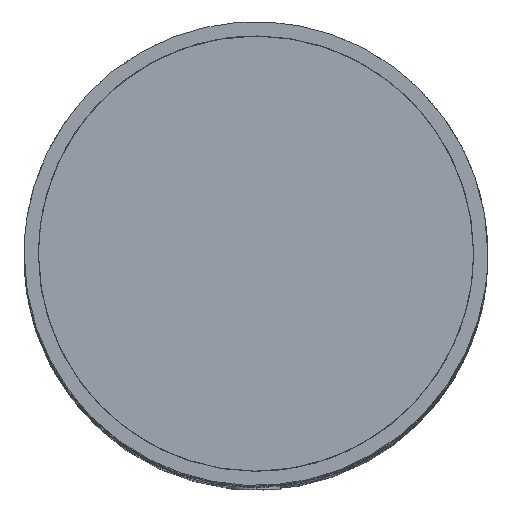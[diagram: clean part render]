
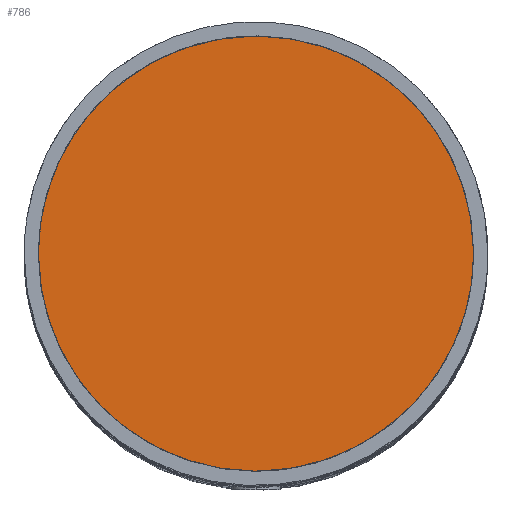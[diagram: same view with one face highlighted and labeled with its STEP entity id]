
A CAD part, top view. The second image highlights one B-rep face of the part: STEP entity #786.
In plain terms, the highlighted planar face has unit normal (0, 0, 1).
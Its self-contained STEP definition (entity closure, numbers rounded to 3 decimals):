
#786=ADVANCED_FACE($,(#2562),#25457,.T.);
#2562=FACE_OUTER_BOUND($,#4331,.T.);
#4331=EDGE_LOOP($,(#8145,#8146));
#8145=ORIENTED_EDGE($,*,*,#17157,.F.);
#8146=ORIENTED_EDGE($,*,*,#17154,.F.);
#17154=EDGE_CURVE($,#21865,#21867,#29653,.T.);
#17157=EDGE_CURVE($,#21867,#21865,#29655,.T.);
#21865=VERTEX_POINT($,#40218);
#21867=VERTEX_POINT($,#40220);
#25457=PLANE($,#31380);
#29653=(
BOUNDED_CURVE()
B_SPLINE_CURVE(2,(#40178,#40179,#40180,#40181,#40182),.UNSPECIFIED.,.F.,
.F.)
B_SPLINE_CURVE_WITH_KNOTS((3,2,3),(-191.637,-143.728,-95.819),
.UNSPECIFIED.)
CURVE()
GEOMETRIC_REPRESENTATION_ITEM()
RATIONAL_B_SPLINE_CURVE((1.,0.707,1.,0.707,1.))
REPRESENTATION_ITEM($)
);
#29655=(
BOUNDED_CURVE()
B_SPLINE_CURVE(2,(#40190,#40191,#40192,#40193,#40194),.UNSPECIFIED.,.F.,
.F.)
B_SPLINE_CURVE_WITH_KNOTS((3,2,3),(-95.819,-47.909,0.),
.UNSPECIFIED.)
CURVE()
GEOMETRIC_REPRESENTATION_ITEM()
RATIONAL_B_SPLINE_CURVE((1.,0.707,1.,0.707,1.))
REPRESENTATION_ITEM($)
);
#31380=AXIS2_PLACEMENT_3D($,#40206,#32155,$);
#32155=DIRECTION($,(0.,0.,1.));
#40178=CARTESIAN_POINT($,(-0.001,-30.5,20.786));
#40179=CARTESIAN_POINT($,(-30.501,-30.499,20.786));
#40180=CARTESIAN_POINT($,(-30.5,0.001,20.786));
#40181=CARTESIAN_POINT($,(-30.499,30.501,20.786));
#40182=CARTESIAN_POINT($,(0.001,30.5,20.786));
#40190=CARTESIAN_POINT($,(0.001,30.5,20.786));
#40191=CARTESIAN_POINT($,(30.501,30.499,20.786));
#40192=CARTESIAN_POINT($,(30.5,-0.001,20.786));
#40193=CARTESIAN_POINT($,(30.499,-30.501,20.786));
#40194=CARTESIAN_POINT($,(-0.001,-30.5,20.786));
#40206=CARTESIAN_POINT($,(-30.499,30.501,20.786));
#40218=CARTESIAN_POINT($,(-0.001,-30.5,20.786));
#40220=CARTESIAN_POINT($,(0.001,30.5,20.786));
